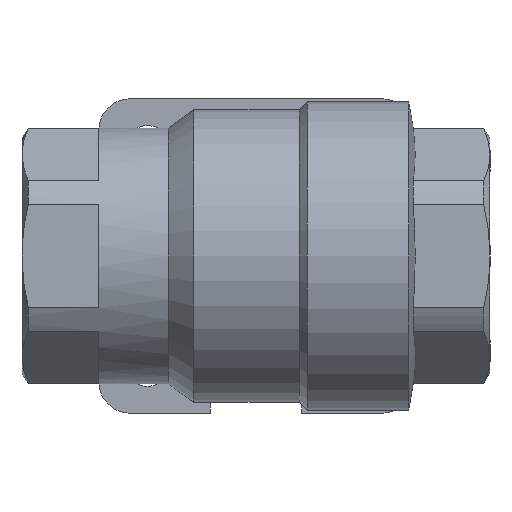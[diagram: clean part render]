
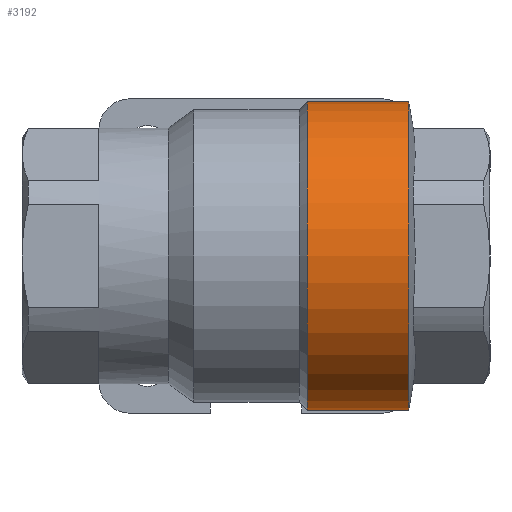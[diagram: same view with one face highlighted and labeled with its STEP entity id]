
A CAD part, front view. The second image highlights one B-rep face of the part: STEP entity #3192.
In plain terms, the highlighted cylindrical face has radius 21.1 mm (diameter 42.2 mm), a partial arc.
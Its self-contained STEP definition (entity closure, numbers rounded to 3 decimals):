
#42 = CARTESIAN_POINT ( 'NONE',  ( 7., 0., 21.1 ) ) ;
#83 = DIRECTION ( 'NONE',  ( -1., 0., 0. ) ) ;
#129 = EDGE_LOOP ( 'NONE', ( #3564, #3546, #3187, #3477 ) ) ;
#381 = CARTESIAN_POINT ( 'NONE',  ( 20.865, 0., 21.1 ) ) ;
#604 = DIRECTION ( 'NONE',  ( -1., 0., 0. ) ) ;
#727 = DIRECTION ( 'NONE',  ( -1., 0., 0. ) ) ;
#779 = CARTESIAN_POINT ( 'NONE',  ( 7., 0., -21.1 ) ) ;
#847 = VECTOR ( 'NONE', #1586, 1000. ) ;
#983 = DIRECTION ( 'NONE',  ( -1., 0., 0. ) ) ;
#1018 = DIRECTION ( 'NONE',  ( 0., 0., 1. ) ) ;
#1080 = AXIS2_PLACEMENT_3D ( 'NONE', #2697, #983, #2974 ) ;
#1082 = VERTEX_POINT ( 'NONE', #779 ) ;
#1206 = CIRCLE ( 'NONE', #1080, 21.1 ) ;
#1300 = CARTESIAN_POINT ( 'NONE',  ( -55.019, 0., 0. ) ) ;
#1446 = LINE ( 'NONE', #2621, #2226 ) ;
#1586 = DIRECTION ( 'NONE',  ( -1., 0., 0. ) ) ;
#1608 = VERTEX_POINT ( 'NONE', #42 ) ;
#1802 = CARTESIAN_POINT ( 'NONE',  ( 7., 0., 0. ) ) ;
#1803 = EDGE_CURVE ( 'NONE', #2543, #2335, #1206, .T. ) ;
#2086 = DIRECTION ( 'NONE',  ( 0., 0., 1. ) ) ;
#2226 = VECTOR ( 'NONE', #604, 1000. ) ;
#2264 = AXIS2_PLACEMENT_3D ( 'NONE', #1300, #727, #1018 ) ;
#2335 = VERTEX_POINT ( 'NONE', #381 ) ;
#2339 = CIRCLE ( 'NONE', #2375, 21.1 ) ;
#2375 = AXIS2_PLACEMENT_3D ( 'NONE', #1802, #83, #2086 ) ;
#2412 = EDGE_CURVE ( 'NONE', #2543, #1082, #3699, .T. ) ;
#2495 = FACE_OUTER_BOUND ( 'NONE', #129, .T. ) ;
#2497 = CARTESIAN_POINT ( 'NONE',  ( 20.865, 0., -21.1 ) ) ;
#2543 = VERTEX_POINT ( 'NONE', #2497 ) ;
#2621 = CARTESIAN_POINT ( 'NONE',  ( -55.019, 0., 21.1 ) ) ;
#2697 = CARTESIAN_POINT ( 'NONE',  ( 20.865, 0., 0. ) ) ;
#2974 = DIRECTION ( 'NONE',  ( 0., 0., 1. ) ) ;
#3152 = CYLINDRICAL_SURFACE ( 'NONE', #2264, 21.1 ) ;
#3187 = ORIENTED_EDGE ( 'NONE', *, *, #3255, .T. ) ;
#3192 = ADVANCED_FACE ( 'NONE', ( #2495 ), #3152, .T. ) ;
#3255 = EDGE_CURVE ( 'NONE', #2335, #1608, #1446, .T. ) ;
#3477 = ORIENTED_EDGE ( 'NONE', *, *, #3508, .F. ) ;
#3508 = EDGE_CURVE ( 'NONE', #1082, #1608, #2339, .T. ) ;
#3546 = ORIENTED_EDGE ( 'NONE', *, *, #1803, .T. ) ;
#3563 = CARTESIAN_POINT ( 'NONE',  ( -55.019, 0., -21.1 ) ) ;
#3564 = ORIENTED_EDGE ( 'NONE', *, *, #2412, .F. ) ;
#3699 = LINE ( 'NONE', #3563, #847 ) ;
